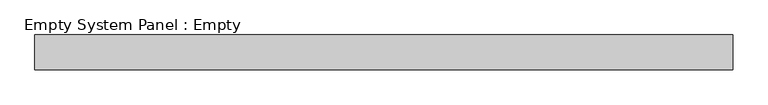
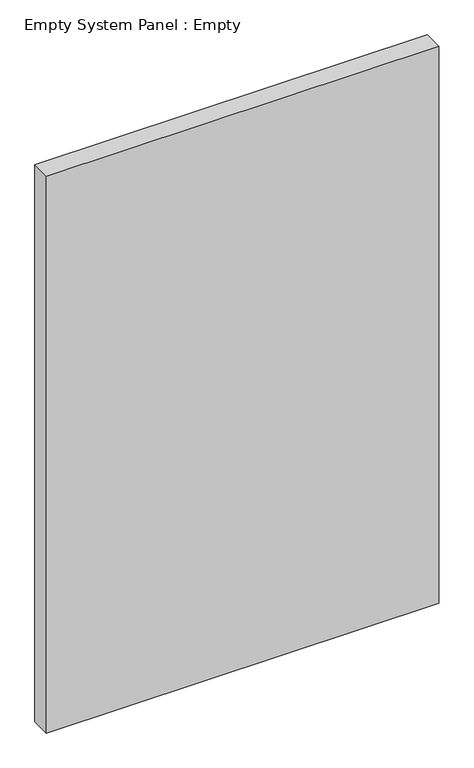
"""IFC4 building model written with IfcOpenShell, lengths in millimetres: plate geometry, Empty System Panel : Empty."""

from ifc_helpers import new_model, si_unit, origin, origin_with_axes, place, context, project, spatial, polyline, outline, extrude, source, transform, mapped, element, save


def empty_system_panel_empty_24b1c33f(model_context):
    return source(origin(), model_context, "Body", "SweptSolid", [
        extrude(outline(polyline([(1000.0, -50.0), (-1000.0, -50.0), (-1000.0, 50.0), (1000.0, 50.0), (1000.0, -50.0)])), origin_with_axes(), (0.0, 0.0, 1.0), 3000.0),
    ])


if __name__ == "__main__":
    model = new_model("IFC4")
    model_context = context("Model", 3, world=origin())
    ifc_project = project(units=[si_unit("LENGTHUNIT", "METRE", prefix="MILLI")], contexts=[model_context])
    site = spatial("IfcSite", under=ifc_project)
    building = spatial("IfcBuilding", under=site)
    placement = place(None, origin())
    empty_system_panel_empty_shape = empty_system_panel_empty_24b1c33f(model_context)
    element("IfcPlate", 1, ObjectType="Empty System Panel : Empty", at=placement, inside=building, context=model_context, shape_type="MappedRepresentation", body=[
        mapped(empty_system_panel_empty_shape, transform((0.0, 0.0, 0.0), x_axis=(1.0, 0.0, 0.0), y_axis=(0.0, 1.0, 0.0), z_axis=(0.0, 0.0, 1.0))),
    ])
    save(model, "model.ifc")
